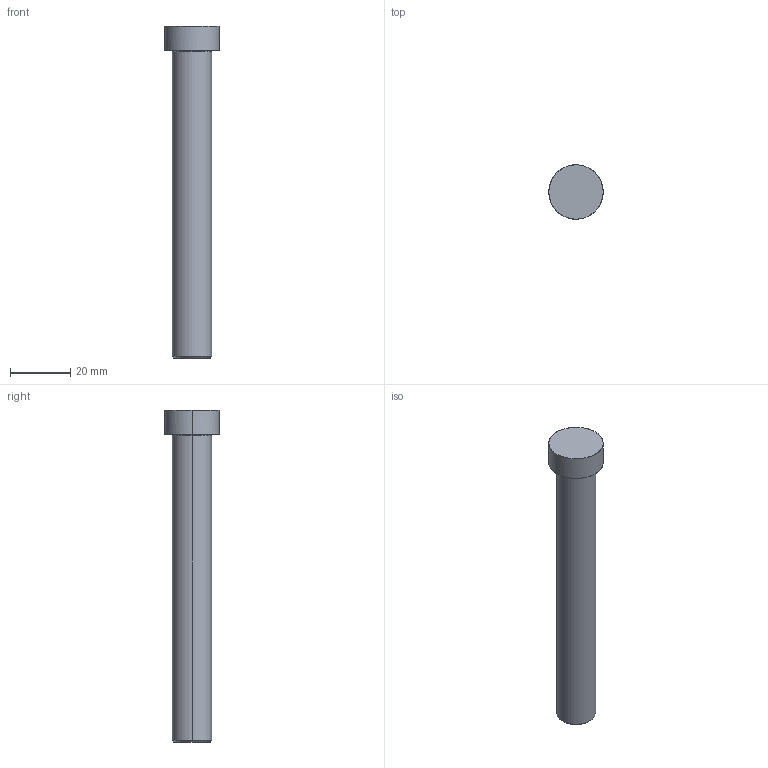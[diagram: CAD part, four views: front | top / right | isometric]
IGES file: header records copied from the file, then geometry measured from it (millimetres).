
Global section: file name: E:\UnigraphicsGraphicData\MISUMI_PRESS-PARTS\IGES\3d_hcup13-110_01336_r00.igs; native system: NX V5.0; preprocessor: UGS NX IGES V5.0; author: MISUMI; date: 20110105.160933; units: millimetre
Bounding box: 18 x 18 x 110 mm (x, y, z)
Surface area: 5107.7 mm2 (no closed solid volume)
Topology: 0 solids, 0 shells, 11 faces, 64 edges, 64 vertices
Faces by surface type: bspline 11
